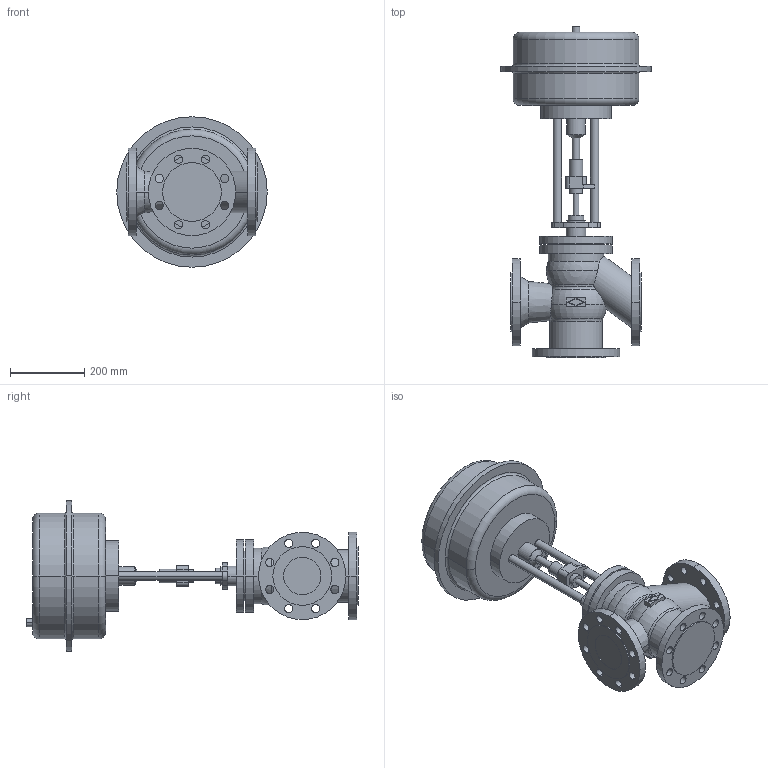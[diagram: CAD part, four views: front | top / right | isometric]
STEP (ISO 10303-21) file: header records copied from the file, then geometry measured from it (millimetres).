
FILE_DESCRIPTION(('OneSpaceDesigner STEP Export'),'2;1');
FILE_NAME('c000000696.stp','2006-09-19T10:19:02',(''),(''),'OneSpace Designer STEP processor for AP214 (Solid Model)','OneSpace Designer 13.20A 18-Aug-2005 (C) CoCreate Software GmbH','');
FILE_SCHEMA(('AUTOMOTIVE_DESIGN { 1 0 10303 214 1 1 1 1 }'));
Length unit declared in the file: millimetre
Products named in the file (2): 1; 2
Bounding box: 405 x 893.5 x 405 mm (x, y, z)
Volume: 30158908.2 mm3; surface area: 1123129.1 mm2
Topology: 2 solids, 2 shells, 212 faces, 525 edges, 341 vertices
Faces by surface type: cylinder 114, plane 68, torus 20, cone 6, sphere 4
Entity records: 5691 total; most frequent: CARTESIAN_POINT 1112, ORIENTED_EDGE 1042, DIRECTION 806, EDGE_CURVE 521, VERTEX_POINT 341, AXIS2_PLACEMENT_3D 299, EDGE_LOOP 288, FACE_OUTER_BOUND 212
